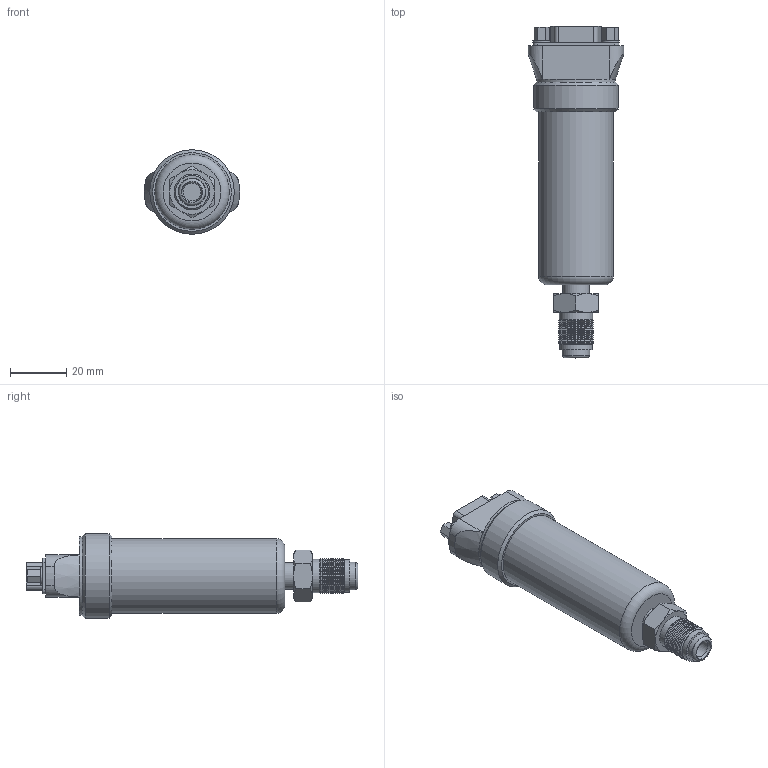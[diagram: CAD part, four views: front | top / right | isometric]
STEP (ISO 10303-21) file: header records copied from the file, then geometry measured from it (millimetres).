
FILE_DESCRIPTION(/* description */ (''),/* implementation_level */ '2;1');
FILE_NAME(/* name */ 'W:\3SA1-F5C-1000.stp',/* time_stamp */ '2015-03-06T15:15:29+01:00',/* author */ ('GOP'),/* organization */ (''),/* preprocessor_version */ 'ST-DEVELOPER v15.2',/* originating_system */ 'Autodesk Inventor 2014',/* authorisation */ '');
FILE_SCHEMA (('AUTOMOTIVE_DESIGN { 1 0 10303 214 3 1 1 }'));
Length unit declared in the file: millimetre
Products named in the file (1): 3SA1-F5C-1000
Bounding box: 33.92 x 118 x 30 mm (x, y, z)
Volume: 50326.1 mm3; surface area: 12816.7 mm2
Topology: 1 solids, 1 shells, 179 faces, 412 edges, 251 vertices
Faces by surface type: cylinder 65, plane 56, cone 46, sphere 9, torus 2, bspline 1
Full cylindrical faces by diameter (mm): 0.8 x9, 2.6 x2, 6.2 x2, 6.35 x1, 9.525 x1, 9.906 x2, 11.7 x1, 11.783 x13, 12.7 x13, 26.5 x1, 28 x1, 30 x1
Entity records: 4597 total; most frequent: CARTESIAN_POINT 843, DIRECTION 780, ORIENTED_EDGE 598, AXIS2_PLACEMENT_3D 337, EDGE_CURVE 299, EDGE_LOOP 285, VERTEX_POINT 228, STYLED_ITEM 180
